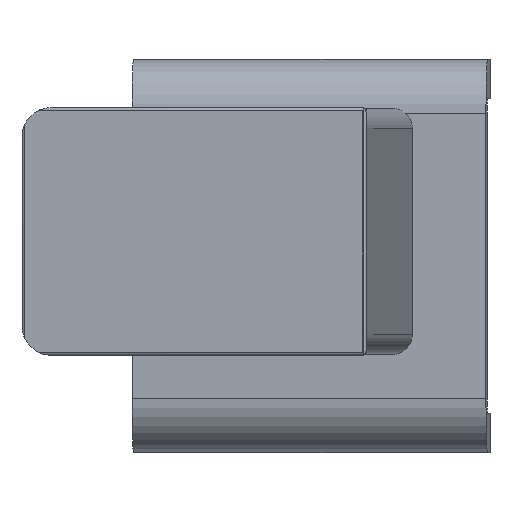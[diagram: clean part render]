
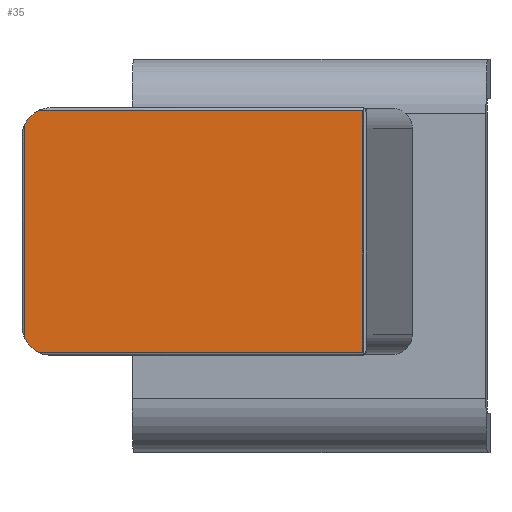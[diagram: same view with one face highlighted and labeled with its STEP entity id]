
A CAD part, left-side view. The second image highlights one B-rep face of the part: STEP entity #35.
In plain terms, the highlighted planar face has unit normal (-1, 0.026, 0).
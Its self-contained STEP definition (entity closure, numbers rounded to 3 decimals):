
#35 = ADVANCED_FACE ( 'NONE', ( #675 ), #1514, .T. ) ;
#134 = CARTESIAN_POINT ( 'NONE',  ( -2182.553, 1813.798, 6972.8 ) ) ;
#152 = LINE ( 'NONE', #364, #2859 ) ;
#162 = VERTEX_POINT ( 'NONE', #3480 ) ;
#197 = DIRECTION ( 'NONE',  ( 0., 0., -1. ) ) ;
#221 = AXIS2_PLACEMENT_3D ( 'NONE', #134, #1030, #1101 ) ;
#346 = CARTESIAN_POINT ( 'NONE',  ( -2182.139, 1829.6, 6960.5 ) ) ;
#364 = CARTESIAN_POINT ( 'NONE',  ( -2182.095, 1831.292, 6985.1 ) ) ;
#427 = CARTESIAN_POINT ( 'NONE',  ( -2182.095, 1831.292, 6960.5 ) ) ;
#467 = DIRECTION ( 'NONE',  ( 0.026, 1., 0. ) ) ;
#494 = ORIENTED_EDGE ( 'NONE', *, *, #2886, .T. ) ;
#512 = CARTESIAN_POINT ( 'NONE',  ( -2183.003, 1796.604, 6985.4 ) ) ;
#675 = FACE_OUTER_BOUND ( 'NONE', #1009, .T. ) ;
#715 = VECTOR ( 'NONE', #197, 1000. ) ;
#899 = EDGE_CURVE ( 'NONE', #1874, #2462, #2364, .T. ) ;
#900 = CARTESIAN_POINT ( 'NONE',  ( -2183.003, 1796.604, 6960.5 ) ) ;
#951 = VECTOR ( 'NONE', #2796, 1000. ) ;
#996 = ORIENTED_EDGE ( 'NONE', *, *, #2496, .F. ) ;
#999 = LINE ( 'NONE', #427, #3568 ) ;
#1000 = CARTESIAN_POINT ( 'NONE',  ( -2182.102, 1830.992, 6961.892 ) ) ;
#1009 = EDGE_LOOP ( 'NONE', ( #996, #2772, #3192, #494, #3102, #3031 ) ) ;
#1030 = DIRECTION ( 'NONE',  ( -1., 0.026, 0. ) ) ;
#1054 = EDGE_CURVE ( 'NONE', #3100, #1855, #2653, .T. ) ;
#1070 = LINE ( 'NONE', #512, #715 ) ;
#1093 = AXIS2_PLACEMENT_3D ( 'NONE', #3279, #2448, #467 ) ;
#1101 = DIRECTION ( 'NONE',  ( -0.026, -1., 0. ) ) ;
#1212 = CARTESIAN_POINT ( 'NONE',  ( -2182.102, 1830.992, 6983.708 ) ) ;
#1268 = DIRECTION ( 'NONE',  ( -0.026, -1., 0. ) ) ;
#1416 = LINE ( 'NONE', #1702, #951 ) ;
#1475 = DIRECTION ( 'NONE',  ( -0.026, -1., 0. ) ) ;
#1514 = PLANE ( 'NONE',  #221 ) ;
#1602 = EDGE_CURVE ( 'NONE', #1855, #2270, #999, .T. ) ;
#1702 = CARTESIAN_POINT ( 'NONE',  ( -2182.102, 1830.992, 6985.4 ) ) ;
#1855 = VERTEX_POINT ( 'NONE', #346 ) ;
#1874 = VERTEX_POINT ( 'NONE', #2856 ) ;
#1997 = DIRECTION ( 'NONE',  ( -1., 0.026, 0. ) ) ;
#2050 = DIRECTION ( 'NONE',  ( 0.026, 1., 0. ) ) ;
#2270 = VERTEX_POINT ( 'NONE', #900 ) ;
#2364 = CIRCLE ( 'NONE', #2538, 3. ) ;
#2448 = DIRECTION ( 'NONE',  ( -1., 0.026, 0. ) ) ;
#2462 = VERTEX_POINT ( 'NONE', #1212 ) ;
#2496 = EDGE_CURVE ( 'NONE', #162, #2270, #1070, .T. ) ;
#2538 = AXIS2_PLACEMENT_3D ( 'NONE', #3093, #1997, #2050 ) ;
#2653 = CIRCLE ( 'NONE', #1093, 3. ) ;
#2772 = ORIENTED_EDGE ( 'NONE', *, *, #3426, .F. ) ;
#2796 = DIRECTION ( 'NONE',  ( 0., 0., -1. ) ) ;
#2856 = CARTESIAN_POINT ( 'NONE',  ( -2182.139, 1829.6, 6985.1 ) ) ;
#2859 = VECTOR ( 'NONE', #1475, 1000. ) ;
#2886 = EDGE_CURVE ( 'NONE', #2462, #3100, #1416, .T. ) ;
#3031 = ORIENTED_EDGE ( 'NONE', *, *, #1602, .T. ) ;
#3093 = CARTESIAN_POINT ( 'NONE',  ( -2182.173, 1828.293, 6982.4 ) ) ;
#3100 = VERTEX_POINT ( 'NONE', #1000 ) ;
#3102 = ORIENTED_EDGE ( 'NONE', *, *, #1054, .T. ) ;
#3192 = ORIENTED_EDGE ( 'NONE', *, *, #899, .T. ) ;
#3279 = CARTESIAN_POINT ( 'NONE',  ( -2182.173, 1828.293, 6963.2 ) ) ;
#3426 = EDGE_CURVE ( 'NONE', #1874, #162, #152, .T. ) ;
#3480 = CARTESIAN_POINT ( 'NONE',  ( -2183.003, 1796.604, 6985.1 ) ) ;
#3568 = VECTOR ( 'NONE', #1268, 1000. ) ;
